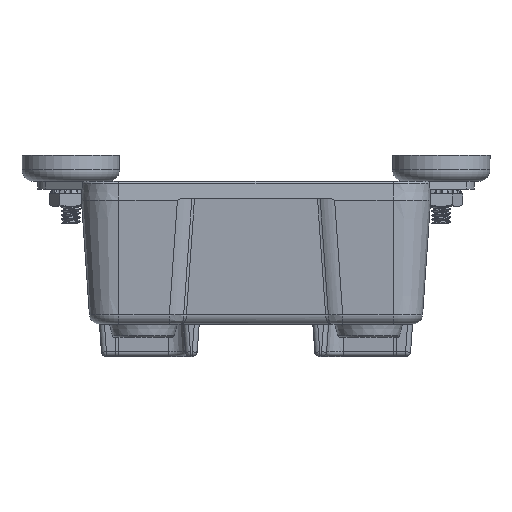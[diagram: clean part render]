
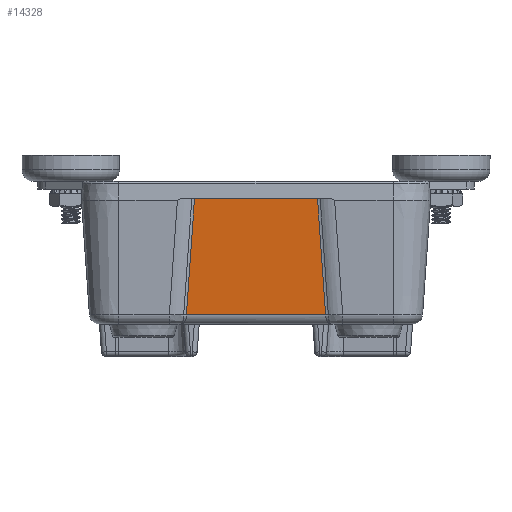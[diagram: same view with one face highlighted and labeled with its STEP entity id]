
A CAD part, left-side view. The second image highlights one B-rep face of the part: STEP entity #14328.
In plain terms, the highlighted planar face has unit normal (-0.998, 0, -0.07).
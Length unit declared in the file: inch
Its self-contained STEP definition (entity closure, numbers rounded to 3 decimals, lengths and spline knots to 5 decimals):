
#1397=PLANE('',#15511);
#1797=FACE_OUTER_BOUND('',#2638,.T.);
#2638=EDGE_LOOP('',(#11034,#11035,#11036,#11037));
#3651=LINE('',#22719,#4709);
#3653=LINE('',#22817,#4711);
#3654=LINE('',#22819,#4712);
#3655=LINE('',#22820,#4713);
#4709=VECTOR('',#17950,1.16262);
#4711=VECTOR('',#17962,1.22895);
#4712=VECTOR('',#17963,1.16262);
#4713=VECTOR('',#17964,1.39076);
#6566=VERTEX_POINT('',#22715);
#6568=VERTEX_POINT('',#22718);
#6572=VERTEX_POINT('',#22816);
#6573=VERTEX_POINT('',#22818);
#8319=EDGE_CURVE('',#6566,#6568,#3651,.T.);
#8327=EDGE_CURVE('',#6572,#6566,#3653,.T.);
#8328=EDGE_CURVE('',#6573,#6572,#3654,.T.);
#8329=EDGE_CURVE('',#6568,#6573,#3655,.T.);
#11034=ORIENTED_EDGE('',*,*,#8319,.F.);
#11035=ORIENTED_EDGE('',*,*,#8327,.F.);
#11036=ORIENTED_EDGE('',*,*,#8328,.F.);
#11037=ORIENTED_EDGE('',*,*,#8329,.F.);
#14328=ADVANCED_FACE('',(#1797),#1397,.F.);
#15511=AXIS2_PLACEMENT_3D('',#22815,#17960,#17961);
#17950=DIRECTION('',(0.07,-0.07,-0.995));
#17960=DIRECTION('center_axis',(0.998,0.,
0.07));
#17961=DIRECTION('ref_axis',(0.,1.,0.));
#17962=DIRECTION('',(0.,-1.,0.));
#17963=DIRECTION('',(-0.07,-0.07,0.995));
#17964=DIRECTION('',(0.,1.,0.));
#22715=CARTESIAN_POINT('',(-2.62013,-0.61447,1.575));
#22718=CARTESIAN_POINT('',(-2.53923,-0.69538,0.41802));
#22719=CARTESIAN_POINT('',(-2.53613,-0.69848,0.37361));
#22815=CARTESIAN_POINT('Origin',(-2.53273,0.71727,0.325));
#22816=CARTESIAN_POINT('',(-2.62013,0.61447,1.575));
#22817=CARTESIAN_POINT('',(-2.62013,-0.71727,1.575));
#22818=CARTESIAN_POINT('',(-2.53923,0.69538,0.41802));
#22819=CARTESIAN_POINT('',(-2.53507,0.69954,0.35856));
#22820=CARTESIAN_POINT('',(-2.53923,0.35864,0.41802));
